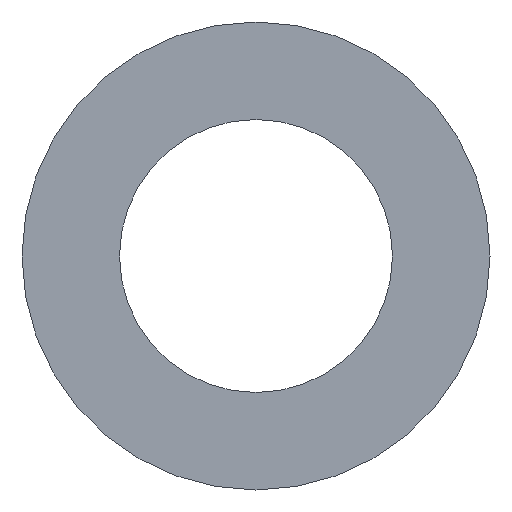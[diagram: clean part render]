
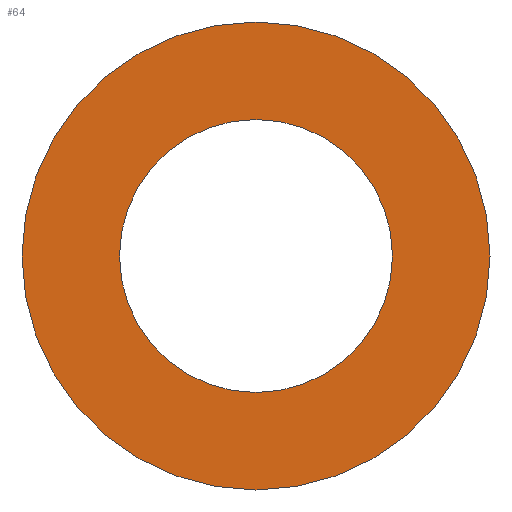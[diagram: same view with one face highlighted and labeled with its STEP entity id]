
A CAD part, left-side view. The second image highlights one B-rep face of the part: STEP entity #64.
In plain terms, the highlighted planar face has unit normal (-1, 0, 0).
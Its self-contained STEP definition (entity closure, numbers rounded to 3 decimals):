
#16=FACE_BOUND('',#28,.T.);
#18=PLANE('',#95);
#22=FACE_OUTER_BOUND('',#27,.T.);
#27=EDGE_LOOP('',(#57));
#28=EDGE_LOOP('',(#58));
#33=CIRCLE('',#89,7.);
#36=CIRCLE('',#93,12.);
#37=VERTEX_POINT('',#118);
#40=VERTEX_POINT('',#126);
#41=EDGE_CURVE('',#37,#37,#33,.T.);
#46=EDGE_CURVE('',#40,#40,#36,.T.);
#57=ORIENTED_EDGE('',*,*,#46,.T.);
#58=ORIENTED_EDGE('',*,*,#41,.T.);
#64=ADVANCED_FACE('',(#22,#16),#18,.T.);
#89=AXIS2_PLACEMENT_3D('',#119,#100,#101);
#93=AXIS2_PLACEMENT_3D('',#128,#110,#111);
#95=AXIS2_PLACEMENT_3D('',#130,#114,#115);
#100=DIRECTION('center_axis',(1.,0.,0.));
#101=DIRECTION('ref_axis',(0.,-1.,0.));
#110=DIRECTION('center_axis',(-1.,0.,0.));
#111=DIRECTION('ref_axis',(0.,-1.,0.));
#114=DIRECTION('center_axis',(-1.,0.,0.));
#115=DIRECTION('ref_axis',(0.,0.,1.));
#118=CARTESIAN_POINT('',(0.,7.,0.));
#119=CARTESIAN_POINT('Origin',(0.,0.,0.));
#126=CARTESIAN_POINT('',(0.,12.,0.));
#128=CARTESIAN_POINT('Origin',(0.,0.,0.));
#130=CARTESIAN_POINT('Origin',(0.,0.,0.));
